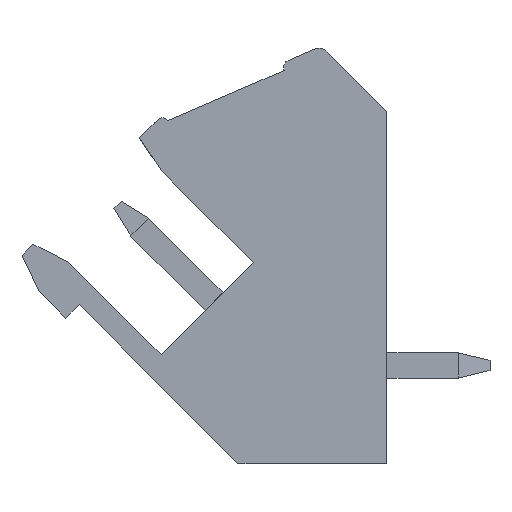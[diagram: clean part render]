
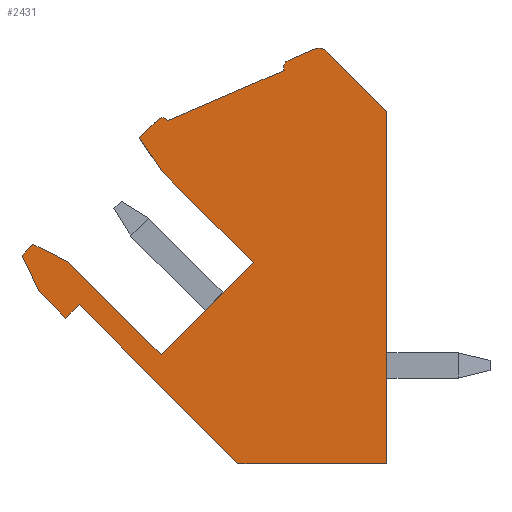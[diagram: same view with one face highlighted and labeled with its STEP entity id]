
A CAD part, left-side view. The second image highlights one B-rep face of the part: STEP entity #2431.
In plain terms, the highlighted planar face has unit normal (-1, 0, 0).
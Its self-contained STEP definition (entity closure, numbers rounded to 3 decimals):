
#201=DIRECTION('',(0.,0.707,0.707));
#202=VECTOR('',#201,3.328);
#203=CARTESIAN_POINT('',(5.08,5.075,-4.39));
#204=LINE('',#203,#202);
#246=DIRECTION('',(0.,0.707,-0.707));
#247=VECTOR('',#246,1.006);
#248=CARTESIAN_POINT('',(5.08,14.201,-4.736));
#249=LINE('',#248,#247);
#346=DIRECTION('',(0.,-0.707,-0.707));
#347=VECTOR('',#346,5.2);
#348=CARTESIAN_POINT('',(5.08,17.726,-10.383));
#349=LINE('',#348,#347);
#350=DIRECTION('',(0.,-0.707,0.707));
#351=VECTOR('',#350,5.18);
#352=CARTESIAN_POINT('',(5.08,14.049,-14.06));
#353=LINE('',#352,#351);
#354=DIRECTION('',(0.,0.707,0.707));
#355=VECTOR('',#354,5.2);
#356=CARTESIAN_POINT('',(5.08,10.387,-10.397));
#357=LINE('',#356,#355);
#358=DIRECTION('',(0.,0.555,0.832));
#359=VECTOR('',#358,1.53);
#360=CARTESIAN_POINT('',(5.08,14.064,-6.72));
#361=LINE('',#360,#359);
#362=CARTESIAN_POINT('',(5.08,13.989,-4.948));
#363=DIRECTION('',(1.,0.,0.));
#364=DIRECTION('',(0.,0.707,0.707));
#365=AXIS2_PLACEMENT_3D('',#362,#363,#364);
#367=DIRECTION('',(0.,-0.707,-0.707));
#368=VECTOR('',#367,0.023);
#369=CARTESIAN_POINT('',(5.08,13.777,-4.736));
#370=LINE('',#369,#368);
#371=DIRECTION('',(0.,-0.918,0.396));
#372=VECTOR('',#371,5.015);
#373=CARTESIAN_POINT('',(5.08,13.761,-4.752));
#374=LINE('',#373,#372);
#375=CARTESIAN_POINT('',(5.08,8.881,-2.646));
#376=DIRECTION('',(1.,0.,0.));
#377=DIRECTION('',(0.,0.918,-0.396));
#378=AXIS2_PLACEMENT_3D('',#375,#376,#377);
#380=DIRECTION('',(0.,-0.918,0.396));
#381=VECTOR('',#380,1.11);
#382=CARTESIAN_POINT('',(5.08,9.,-2.371));
#383=LINE('',#382,#381);
#384=CARTESIAN_POINT('',(5.08,7.782,-2.39));
#385=DIRECTION('',(1.,0.,0.));
#386=DIRECTION('',(0.,0.396,0.918));
#387=AXIS2_PLACEMENT_3D('',#384,#385,#386);
#389=DIRECTION('',(0.,0.,-1.));
#390=VECTOR('',#389,14.);
#391=CARTESIAN_POINT('',(5.08,5.075,-4.39));
#392=LINE('',#391,#390);
#393=DIRECTION('',(0.,1.,0.));
#394=VECTOR('',#393,5.917);
#395=CARTESIAN_POINT('',(5.08,5.075,-18.39));
#396=LINE('',#395,#394);
#397=DIRECTION('',(0.,0.707,0.707));
#398=VECTOR('',#397,8.924);
#399=CARTESIAN_POINT('',(5.08,10.992,-18.39));
#400=LINE('',#399,#398);
#401=DIRECTION('',(0.,0.428,0.904));
#402=VECTOR('',#401,1.593);
#403=CARTESIAN_POINT('',(5.08,18.893,-11.55));
#404=LINE('',#403,#402);
#405=DIRECTION('',(0.,-0.894,-0.447));
#406=VECTOR('',#405,1.581);
#407=CARTESIAN_POINT('',(5.08,19.141,-9.676));
#408=LINE('',#407,#406);
#792=DIRECTION('',(0.,-0.707,-0.707));
#793=VECTOR('',#792,1.5);
#794=CARTESIAN_POINT('',(5.08,18.893,-11.55));
#795=LINE('',#794,#793);
#804=DIRECTION('',(0.,-0.707,0.707));
#805=VECTOR('',#804,0.75);
#806=CARTESIAN_POINT('',(5.08,17.832,-12.61));
#807=LINE('',#806,#805);
#892=DIRECTION('',(0.,0.707,-0.707));
#893=VECTOR('',#892,0.614);
#894=CARTESIAN_POINT('',(5.08,19.141,-9.676));
#895=LINE('',#894,#893);
#1466=CARTESIAN_POINT('',(5.08,10.992,-18.39));
#1467=VERTEX_POINT('',#1466);
#1468=CARTESIAN_POINT('',(5.08,5.075,-18.39));
#1469=VERTEX_POINT('',#1468);
#1646=CARTESIAN_POINT('',(5.08,17.726,-10.383));
#1648=VERTEX_POINT('',#1646);
#1660=CARTESIAN_POINT('',(5.08,17.832,-12.61));
#1661=VERTEX_POINT('',#1660);
#1670=CARTESIAN_POINT('',(5.08,18.893,-11.55));
#1671=VERTEX_POINT('',#1670);
#1672=CARTESIAN_POINT('',(5.08,17.302,-12.08));
#1673=VERTEX_POINT('',#1672);
#1674=CARTESIAN_POINT('',(5.08,19.575,-10.11));
#1675=VERTEX_POINT('',#1674);
#1676=CARTESIAN_POINT('',(5.08,19.141,-9.676));
#1677=VERTEX_POINT('',#1676);
#1678=CARTESIAN_POINT('',(5.08,14.064,-6.72));
#1679=CARTESIAN_POINT('',(5.08,14.912,-5.447));
#1680=VERTEX_POINT('',#1678);
#1681=VERTEX_POINT('',#1679);
#1682=CARTESIAN_POINT('',(5.08,14.201,-4.736));
#1683=VERTEX_POINT('',#1682);
#1684=CARTESIAN_POINT('',(5.08,13.777,-4.736));
#1685=VERTEX_POINT('',#1684);
#1686=CARTESIAN_POINT('',(5.08,13.761,-4.752));
#1687=VERTEX_POINT('',#1686);
#1688=CARTESIAN_POINT('',(5.08,9.156,-2.765));
#1689=VERTEX_POINT('',#1688);
#1690=CARTESIAN_POINT('',(5.08,9.,-2.371));
#1691=VERTEX_POINT('',#1690);
#1692=CARTESIAN_POINT('',(5.08,7.98,-1.931));
#1693=VERTEX_POINT('',#1692);
#1694=CARTESIAN_POINT('',(5.08,7.429,-2.036));
#1695=VERTEX_POINT('',#1694);
#1696=CARTESIAN_POINT('',(5.08,5.075,-4.39));
#1697=VERTEX_POINT('',#1696);
#1856=CARTESIAN_POINT('',(5.08,14.049,-14.06));
#1858=VERTEX_POINT('',#1856);
#1886=CARTESIAN_POINT('',(5.08,10.387,-10.397));
#1887=VERTEX_POINT('',#1886);
#2395=CARTESIAN_POINT('',(5.08,3.301,6.164));
#2396=DIRECTION('',(1.,0.,0.));
#2397=DIRECTION('',(0.,0.707,-0.707));
#2398=AXIS2_PLACEMENT_3D('',#2395,#2396,#2397);
#2399=PLANE('',#2398);
#2400=ORIENTED_EDGE('',*,*,#2374,.T.);
#2401=ORIENTED_EDGE('',*,*,#2333,.T.);
#2403=ORIENTED_EDGE('',*,*,#2402,.T.);
#2405=ORIENTED_EDGE('',*,*,#2404,.T.);
#2406=ORIENTED_EDGE('',*,*,#2254,.F.);
#2407=ORIENTED_EDGE('',*,*,#2237,.T.);
#2408=ORIENTED_EDGE('',*,*,#2222,.T.);
#2409=ORIENTED_EDGE('',*,*,#2207,.T.);
#2410=ORIENTED_EDGE('',*,*,#2192,.T.);
#2411=ORIENTED_EDGE('',*,*,#2177,.T.);
#2412=ORIENTED_EDGE('',*,*,#2162,.T.);
#2413=ORIENTED_EDGE('',*,*,#2147,.F.);
#2415=ORIENTED_EDGE('',*,*,#2414,.T.);
#2416=ORIENTED_EDGE('',*,*,#1911,.T.);
#2418=ORIENTED_EDGE('',*,*,#2417,.T.);
#2420=ORIENTED_EDGE('',*,*,#2419,.F.);
#2422=ORIENTED_EDGE('',*,*,#2421,.F.);
#2424=ORIENTED_EDGE('',*,*,#2423,.T.);
#2426=ORIENTED_EDGE('',*,*,#2425,.F.);
#2428=ORIENTED_EDGE('',*,*,#2427,.T.);
#2429=EDGE_LOOP('',(#2400,#2401,#2403,#2405,#2406,#2407,#2408,#2409,#2410,#2411,
#2412,#2413,#2415,#2416,#2418,#2420,#2422,#2424,#2426,#2428));
#2430=FACE_OUTER_BOUND('',#2429,.F.);
#2431=ADVANCED_FACE('',(#2430),#2399,.F.);
#366=CIRCLE('',#365,0.3);
#379=CIRCLE('',#378,0.3);
#388=CIRCLE('',#387,0.5);
#1911=EDGE_CURVE('',#1469,#1467,#396,.T.);
#2147=EDGE_CURVE('',#1697,#1695,#204,.T.);
#2162=EDGE_CURVE('',#1693,#1695,#388,.T.);
#2177=EDGE_CURVE('',#1691,#1693,#383,.T.);
#2192=EDGE_CURVE('',#1689,#1691,#379,.T.);
#2207=EDGE_CURVE('',#1687,#1689,#374,.T.);
#2222=EDGE_CURVE('',#1685,#1687,#370,.T.);
#2237=EDGE_CURVE('',#1683,#1685,#366,.T.);
#2254=EDGE_CURVE('',#1683,#1681,#249,.T.);
#2333=EDGE_CURVE('',#1858,#1887,#353,.T.);
#2374=EDGE_CURVE('',#1648,#1858,#349,.T.);
#2402=EDGE_CURVE('',#1887,#1680,#357,.T.);
#2404=EDGE_CURVE('',#1680,#1681,#361,.T.);
#2414=EDGE_CURVE('',#1697,#1469,#392,.T.);
#2417=EDGE_CURVE('',#1467,#1673,#400,.T.);
#2419=EDGE_CURVE('',#1661,#1673,#807,.T.);
#2421=EDGE_CURVE('',#1671,#1661,#795,.T.);
#2423=EDGE_CURVE('',#1671,#1675,#404,.T.);
#2425=EDGE_CURVE('',#1677,#1675,#895,.T.);
#2427=EDGE_CURVE('',#1677,#1648,#408,.T.);
